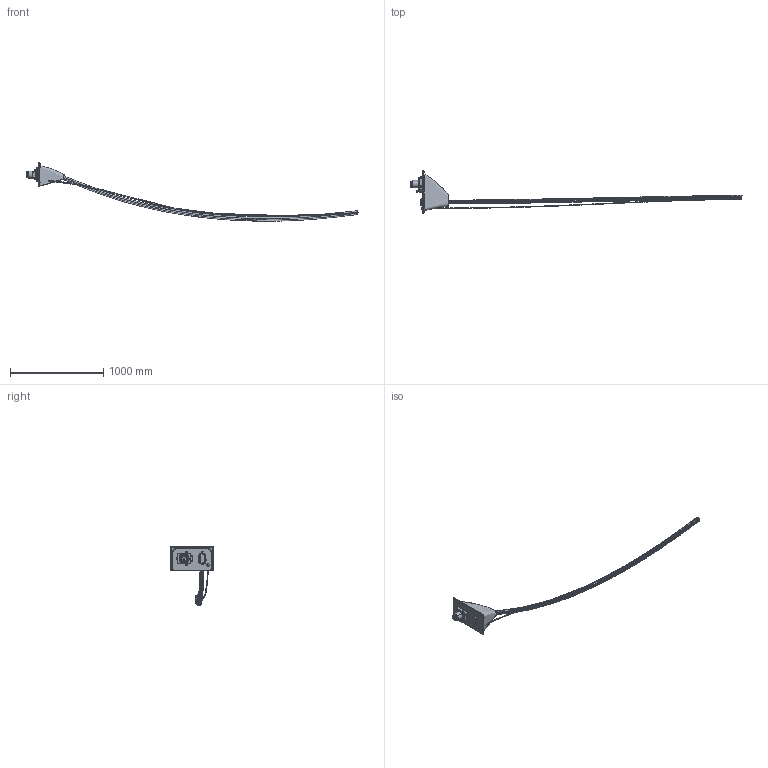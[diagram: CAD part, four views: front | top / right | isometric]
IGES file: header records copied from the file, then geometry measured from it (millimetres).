
Start section: SolidWorks IGES file using analytic representation for surfaces
Global section: file name: C:\Users\seascer\Documents\WORK\Tarma - IRB 6790\CAD för kunder\Exporterade\IRB6790_harness.IGS; native system: SolidWorks 2016; preprocessor: SolidWorks 2016; author: SEASCER; date: 181211.104549; units: millimetre
Bounding box: 3563.66 x 454 x 626.1 mm (x, y, z)
Surface area: 1716181.6 mm2 (no closed solid volume)
Topology: 0 solids, 0 shells, 1745 faces, 20416 edges, 20390 vertices
Faces by surface type: bspline 917, revolution 828
